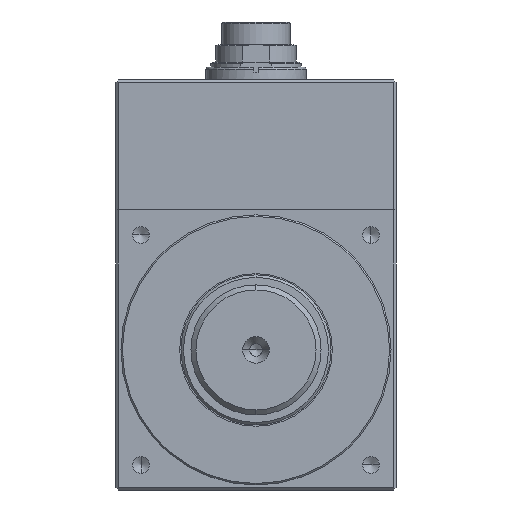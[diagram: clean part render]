
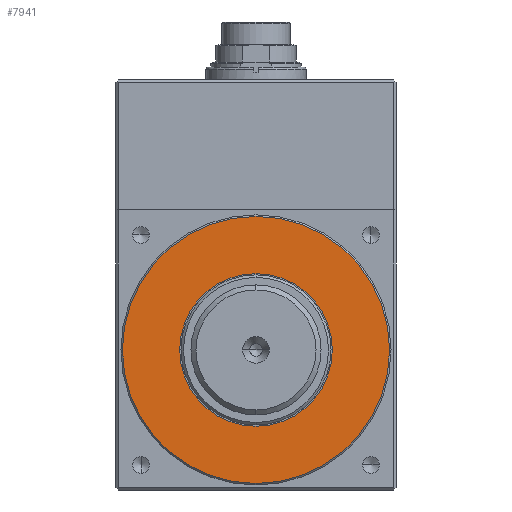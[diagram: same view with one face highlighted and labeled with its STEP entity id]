
A CAD part, left-side view. The second image highlights one B-rep face of the part: STEP entity #7941.
In plain terms, the highlighted free-form (B-spline) face has degree [1, 1] with [2, 2] control points.
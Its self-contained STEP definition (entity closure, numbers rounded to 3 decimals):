
#445=CARTESIAN_POINT('',(-39.,0.,0.));
#446=DIRECTION('',(1.,0.,0.));
#447=DIRECTION('',(0.,0.,1.));
#448=AXIS2_PLACEMENT_3D('',#445,#446,#447);
#450=CARTESIAN_POINT('',(-39.,0.,0.));
#451=DIRECTION('',(1.,0.,0.));
#452=DIRECTION('',(0.,0.,-1.));
#453=AXIS2_PLACEMENT_3D('',#450,#451,#452);
#455=CARTESIAN_POINT('',(-39.,0.,0.));
#456=DIRECTION('',(1.,0.,0.));
#457=DIRECTION('',(0.,0.,1.));
#458=AXIS2_PLACEMENT_3D('',#455,#456,#457);
#460=CARTESIAN_POINT('',(-39.,0.,0.));
#461=DIRECTION('',(-1.,0.,0.));
#462=DIRECTION('',(0.,0.,1.));
#463=AXIS2_PLACEMENT_3D('',#460,#461,#462);
#6138=CARTESIAN_POINT('',(-39.,0.,15.25));
#6139=CARTESIAN_POINT('',(-39.,0.,-15.25));
#6140=VERTEX_POINT('',#6138);
#6141=VERTEX_POINT('',#6139);
#6150=CARTESIAN_POINT('',(-39.,0.,26.7));
#6151=CARTESIAN_POINT('',(-39.,0.,-26.7));
#6152=VERTEX_POINT('',#6150);
#6153=VERTEX_POINT('',#6151);
#7926=CARTESIAN_POINT('',(-39.,27.768,27.768));
#7927=CARTESIAN_POINT('',(-39.,-27.768,27.768));
#7928=CARTESIAN_POINT('',(-39.,27.768,-27.768));
#7929=CARTESIAN_POINT('',(-39.,-27.768,-27.768));
#7930=B_SPLINE_SURFACE_WITH_KNOTS('',1,1,((#7926,#7927),(#7928,#7929)),
.UNSPECIFIED.,.F.,.F.,.F.,(2,2),(2,2),(-27.768,27.768),(-27.768,27.768),
.UNSPECIFIED.);
#7931=ORIENTED_EDGE('',*,*,#7890,.T.);
#7932=ORIENTED_EDGE('',*,*,#7857,.T.);
#7933=EDGE_LOOP('',(#7931,#7932));
#7934=FACE_OUTER_BOUND('',#7933,.F.);
#7936=ORIENTED_EDGE('',*,*,#7935,.F.);
#7938=ORIENTED_EDGE('',*,*,#7937,.T.);
#7939=EDGE_LOOP('',(#7936,#7938));
#7940=FACE_BOUND('',#7939,.F.);
#7941=ADVANCED_FACE('',(#7934,#7940),#7930,.T.);
#449=CIRCLE('',#448,26.7);
#454=CIRCLE('',#453,26.7);
#459=CIRCLE('',#458,15.25);
#464=CIRCLE('',#463,15.25);
#7857=EDGE_CURVE('',#6153,#6152,#454,.T.);
#7890=EDGE_CURVE('',#6152,#6153,#449,.T.);
#7935=EDGE_CURVE('',#6140,#6141,#459,.T.);
#7937=EDGE_CURVE('',#6140,#6141,#464,.T.);
